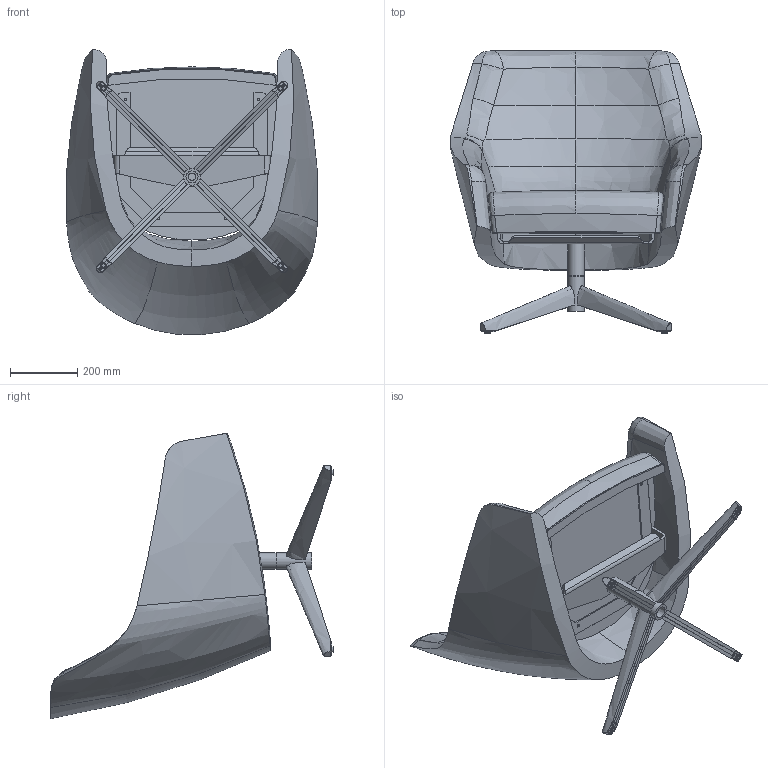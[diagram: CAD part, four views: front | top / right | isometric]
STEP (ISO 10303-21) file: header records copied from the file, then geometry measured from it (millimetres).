
FILE_DESCRIPTION (( 'STEP AP203' ), '1' );
FILE_NAME ('Puk low.STEP', '2014-11-14T17:34:01', ( '' ), ( '' ), 'SwSTEP 2.0', 'SolidWorks 2014', '' );
FILE_SCHEMA (( 'CONFIG_CONTROL_DESIGN' ));
Length unit declared in the file: millimetre
Products named in the file (1): Puk low
Bounding box: 745.55 x 840.45 x 848.05 mm (x, y, z)
Volume: 86178059.2 mm3; surface area: 3020234.4 mm2
Topology: 22 solids, 22 shells, 454 faces, 1169 edges, 762 vertices
Faces by surface type: plane 210, cylinder 145, bspline 77, cone 17, torus 5
Full cylindrical faces by diameter (mm): 3.4 x4, 6.9 x4, 7 x4, 8 x4, 9 x2, 16 x4, 21 x1, 32 x1, 32.2 x1, 50 x2
Entity records: 40218 total; most frequent: CARTESIAN_POINT 29809, ORIENTED_EDGE 2206, DIRECTION 1934, EDGE_CURVE 1103, VERTEX_POINT 746, AXIS2_PLACEMENT_3D 683, LINE 568, VECTOR 568
